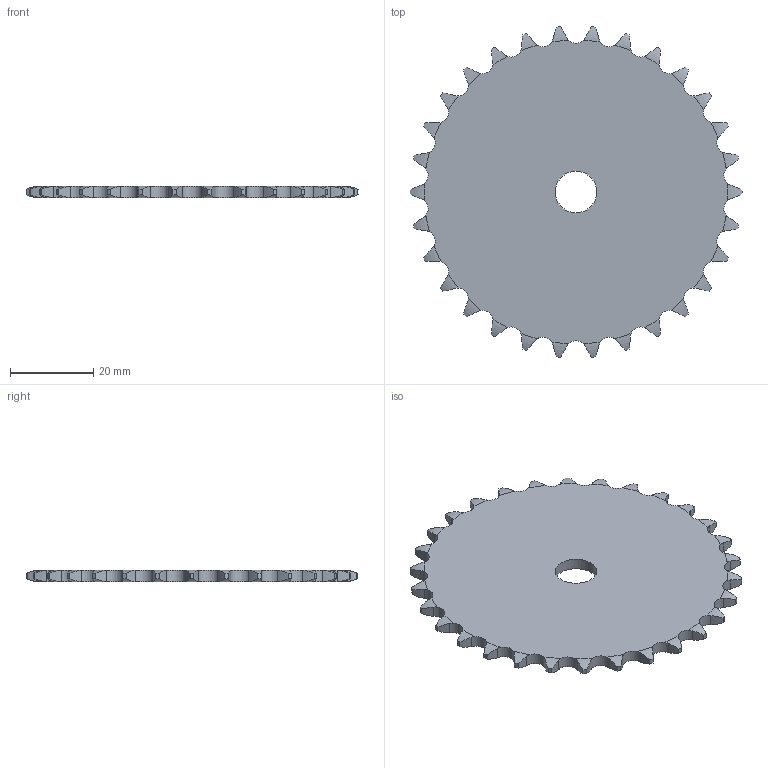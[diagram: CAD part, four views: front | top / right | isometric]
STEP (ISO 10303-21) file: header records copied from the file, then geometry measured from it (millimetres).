
FILE_DESCRIPTION((''),'2;1');
FILE_NAME('500-081-0030_PRT','2021-02-12T',('Brieden'),('Brieden'),'PRO/ENGINEER BY PARAMETRIC TECHNOLOGY CORPORATION, 2010160','PRO/ENGINEER BY PARAMETRIC TECHNOLOGY CORPORATION, 2010160','');
FILE_SCHEMA(('AUTOMOTIVE_DESIGN { 1 0 10303 214 1 1 1 1 }'));
Length unit declared in the file: millimetre
Products named in the file (1): 500-081-0030_PRT
Bounding box: 79.8 x 79.45 x 2.8 mm (x, y, z)
Volume: 11966.2 mm3; surface area: 9600.9 mm2
Topology: 1 solids, 1 shells, 184 faces, 546 edges, 364 vertices
Faces by surface type: cylinder 122, torus 60, plane 2
Entity records: 8888 total; most frequent: CARTESIAN_POINT 2539, ORIENTED_EDGE 1092, DIRECTION 858, PRESENTATION_STYLE_ASSIGNMENT 547, STYLED_ITEM 547, CURVE_STYLE 546, EDGE_CURVE 546, AXIS2_PLACEMENT_3D 368
